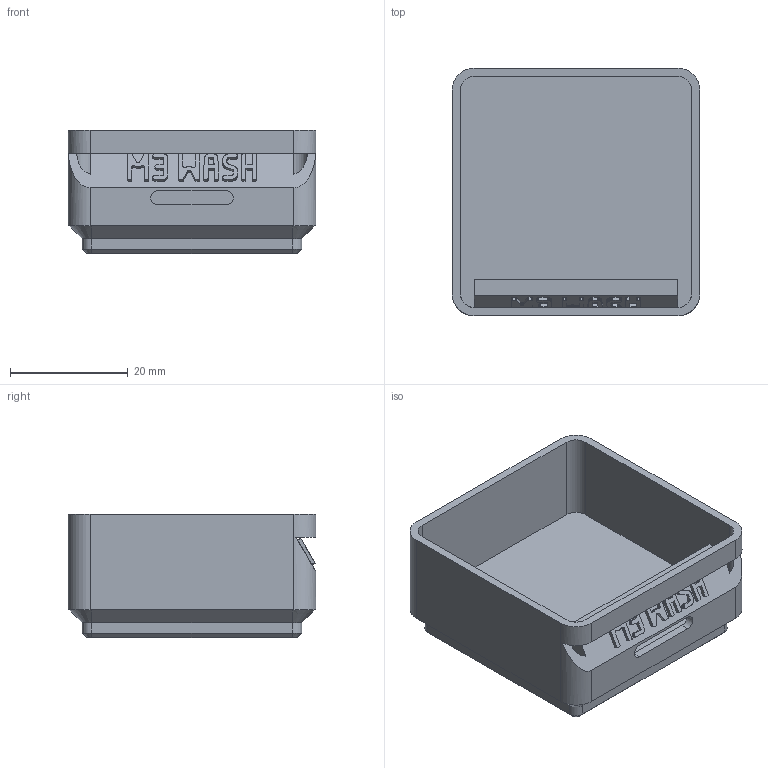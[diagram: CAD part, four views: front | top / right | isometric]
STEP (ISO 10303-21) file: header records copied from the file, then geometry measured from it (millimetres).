
FILE_DESCRIPTION(('Open CASCADE Model'),'2;1');
FILE_NAME('Open CASCADE Shape Model','2026-11-03T17:13:31',('Author'),( 'Open CASCADE'),'Open CASCADE STEP processor 8.0','build123d', 'Unknown');
FILE_SCHEMA(('AUTOMOTIVE_DESIGN { 1 0 10303 214 1 1 1 1 }'));
Length unit declared in the file: millimetre
Products named in the file (1): COMPOUND
Bounding box: 42 x 42 x 21 mm (x, y, z)
Volume: 12854.3 mm3; surface area: 9304.8 mm2
Topology: 1 solids, 1 shells, 676 faces, 1983 edges, 1316 vertices
Faces by surface type: plane 654, cylinder 14, cone 8
Entity records: 46502 total; most frequent: CARTESIAN_POINT 9352, DIRECTION 6005, LINE 4535, VECTOR 4535, ORIENTED_EDGE 3966, PCURVE 3966, DEFINITIONAL_REPRESENTATION 3966, EDGE_CURVE 1983
